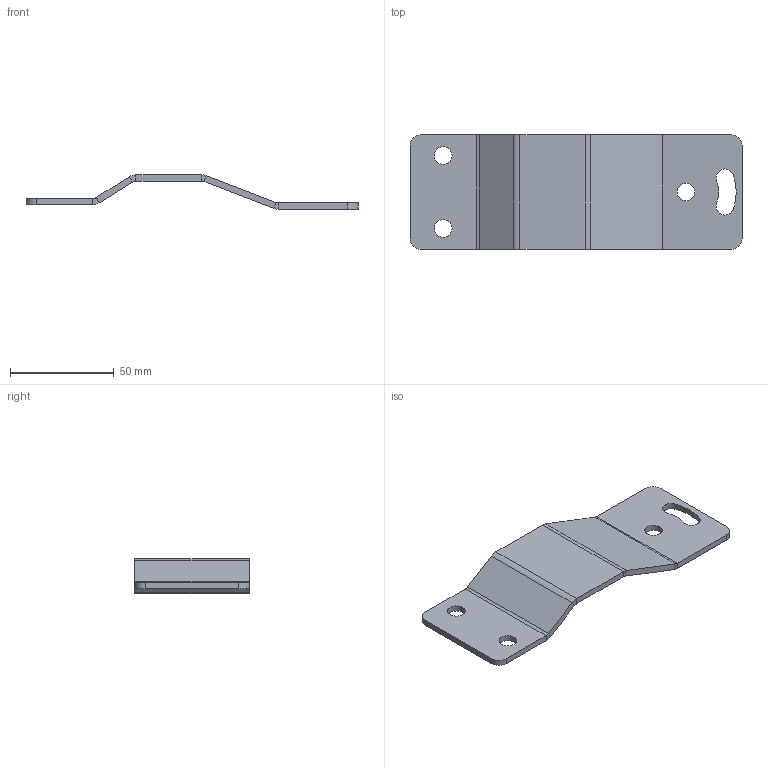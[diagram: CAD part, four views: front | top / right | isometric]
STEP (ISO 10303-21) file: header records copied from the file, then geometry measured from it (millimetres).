
FILE_DESCRIPTION(/* description */ ('BEAM SUPPORT 60x60 TO SERIE 520'),/* implementation_level */ '2;1');
FILE_NAME(/* name */ '500-1225.stp',/* time_stamp */ '2022-09-16T08:24:54+02:00',/* author */ ('PL'),/* organization */ ('CARRYLINE'),/* preprocessor_version */ 'ST-DEVELOPER v19.2',/* originating_system */ 'Autodesk Inventor 2023',/* authorisation */ '');
FILE_SCHEMA (('AUTOMOTIVE_DESIGN { 1 0 10303 214 3 1 1 }'));
Length unit declared in the file: millimetre
Products named in the file (1): 500-1225
Bounding box: 159.73 x 55 x 16.47 mm (x, y, z)
Volume: 26178.6 mm3; surface area: 19152.9 mm2
Topology: 1 solids, 1 shells, 49 faces, 109 edges, 62 vertices
Faces by surface type: plane 30, cylinder 19
Full cylindrical faces by diameter (mm): 8.5 x3
Entity records: 1384 total; most frequent: DIRECTION 247, CARTESIAN_POINT 221, ORIENTED_EDGE 218, EDGE_CURVE 109, AXIS2_PLACEMENT_3D 88, LINE 71, VECTOR 71, VERTEX_POINT 62
